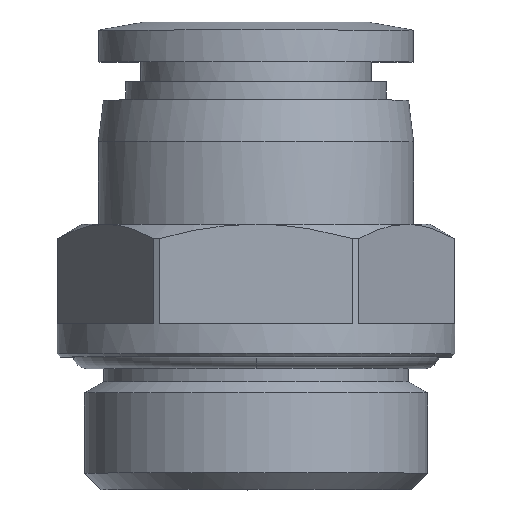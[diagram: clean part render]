
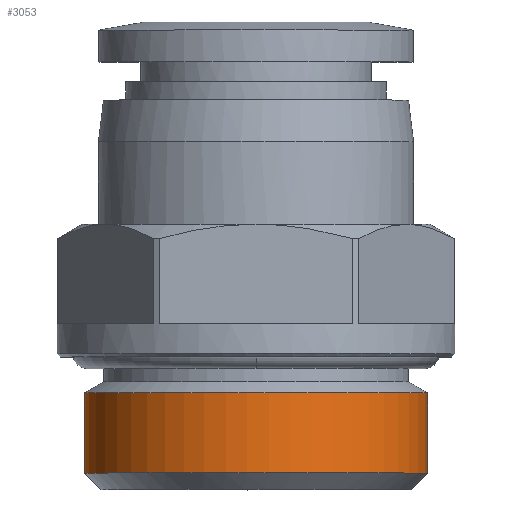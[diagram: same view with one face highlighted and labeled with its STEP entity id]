
A CAD part, top view. The second image highlights one B-rep face of the part: STEP entity #3053.
In plain terms, the highlighted cylindrical face has radius 10.35 mm (diameter 20.7 mm), a partial arc.
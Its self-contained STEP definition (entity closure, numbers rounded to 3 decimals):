
#13 = CARTESIAN_POINT ( 'NONE',  ( 10.081, 5.836, 2.709 ) ) ;
#91 = DIRECTION ( 'NONE',  ( 0., 1., 0. ) ) ;
#143 = CARTESIAN_POINT ( 'NONE',  ( 10.35, 1., 1.355 ) ) ;
#155 = EDGE_LOOP ( 'NONE', ( #210, #1921, #3296, #2429 ) ) ;
#194 = CARTESIAN_POINT ( 'NONE',  ( -10.35, 1., 1.355 ) ) ;
#210 = ORIENTED_EDGE ( 'NONE', *, *, #642, .F. ) ;
#292 = CARTESIAN_POINT ( 'NONE',  ( -1.355, 5.836, 10.35 ) ) ;
#304 = CARTESIAN_POINT ( 'NONE',  ( 10.35, 1., 0. ) ) ;
#375 = CARTESIAN_POINT ( 'NONE',  ( 10.35, 1., 0. ) ) ;
#410 = CARTESIAN_POINT ( 'NONE',  ( 10.35, 5.836, 0. ) ) ;
#440 = DIRECTION ( 'NONE',  ( 0., 1., 0. ) ) ;
#524 = VERTEX_POINT ( 'NONE', #410 ) ;
#544 = CARTESIAN_POINT ( 'NONE',  ( 8.277, 5.836, 6.361 ) ) ;
#562 = CARTESIAN_POINT ( 'NONE',  ( 9.044, 5.836, 5.212 ) ) ;
#642 = EDGE_CURVE ( 'NONE', #3328, #822, #771, .T. ) ;
#680 = CARTESIAN_POINT ( 'NONE',  ( 8.277, 1., 6.361 ) ) ;
#732 = FACE_OUTER_BOUND ( 'NONE', #155, .T. ) ;
#771 = B_SPLINE_CURVE_WITH_KNOTS ( 'NONE', 3,
 ( #375, #143, #1405, #1170, #680, #2188, #930, #2968, #2203, #2987, #1709, #1477, #2498, #1200, #3042, #1723, #194, #2516 ),
 .UNSPECIFIED., .F., .F.,
 ( 4, 2, 2, 2, 2, 2, 2, 2, 4 ),
 ( 0.5, 0.563, 0.625, 0.688, 0.75, 0.813, 0.875, 0.938, 1. ),
 .UNSPECIFIED. ) ;
#784 = CARTESIAN_POINT ( 'NONE',  ( -10.35, 5.836, 1.355 ) ) ;
#805 = CARTESIAN_POINT ( 'NONE',  ( -10.35, 3.418, 0. ) ) ;
#815 = CARTESIAN_POINT ( 'NONE',  ( -9.044, 5.836, 5.212 ) ) ;
#819 = VECTOR ( 'NONE', #91, 1000. ) ;
#822 = VERTEX_POINT ( 'NONE', #2502 ) ;
#832 = CARTESIAN_POINT ( 'NONE',  ( 1.355, 5.836, 10.35 ) ) ;
#912 = CARTESIAN_POINT ( 'NONE',  ( 10.35, 3.418, 0. ) ) ;
#930 = CARTESIAN_POINT ( 'NONE',  ( 5.212, 1., 9.044 ) ) ;
#1049 = CARTESIAN_POINT ( 'NONE',  ( -10.35, 5.836, 0. ) ) ;
#1095 = CARTESIAN_POINT ( 'NONE',  ( 5.212, 5.836, 9.044 ) ) ;
#1170 = CARTESIAN_POINT ( 'NONE',  ( 9.044, 1., 5.212 ) ) ;
#1200 = CARTESIAN_POINT ( 'NONE',  ( -8.277, 1., 6.361 ) ) ;
#1234 = VERTEX_POINT ( 'NONE', #1995 ) ;
#1304 = CARTESIAN_POINT ( 'NONE',  ( -5.212, 5.836, 9.044 ) ) ;
#1312 = DIRECTION ( 'NONE',  ( 0., 1., 0. ) ) ;
#1350 = EDGE_CURVE ( 'NONE', #822, #1234, #2590, .T. ) ;
#1405 = CARTESIAN_POINT ( 'NONE',  ( 10.081, 1., 2.709 ) ) ;
#1477 = CARTESIAN_POINT ( 'NONE',  ( -5.212, 1., 9.044 ) ) ;
#1578 = CARTESIAN_POINT ( 'NONE',  ( 6.361, 5.836, 8.277 ) ) ;
#1594 = CARTESIAN_POINT ( 'NONE',  ( 2.709, 5.836, 10.081 ) ) ;
#1709 = CARTESIAN_POINT ( 'NONE',  ( -2.709, 1., 10.081 ) ) ;
#1723 = CARTESIAN_POINT ( 'NONE',  ( -10.081, 1., 2.709 ) ) ;
#1759 = CYLINDRICAL_SURFACE ( 'NONE', #1949, 10.35 ) ;
#1778 = CARTESIAN_POINT ( 'NONE',  ( 0., 3.418, 0. ) ) ;
#1921 = ORIENTED_EDGE ( 'NONE', *, *, #3214, .T. ) ;
#1949 = AXIS2_PLACEMENT_3D ( 'NONE', #1778, #440, #2008 ) ;
#1995 = CARTESIAN_POINT ( 'NONE',  ( -10.35, 5.836, 0. ) ) ;
#2008 = DIRECTION ( 'NONE',  ( -1., 0., 0. ) ) ;
#2188 = CARTESIAN_POINT ( 'NONE',  ( 6.361, 1., 8.277 ) ) ;
#2203 = CARTESIAN_POINT ( 'NONE',  ( 1.355, 1., 10.35 ) ) ;
#2359 = CARTESIAN_POINT ( 'NONE',  ( 10.35, 5.836, 0. ) ) ;
#2424 = LINE ( 'NONE', #912, #819 ) ;
#2429 = ORIENTED_EDGE ( 'NONE', *, *, #1350, .F. ) ;
#2498 = CARTESIAN_POINT ( 'NONE',  ( -6.361, 1., 8.277 ) ) ;
#2502 = CARTESIAN_POINT ( 'NONE',  ( -10.35, 1., 0. ) ) ;
#2516 = CARTESIAN_POINT ( 'NONE',  ( -10.35, 1., 0. ) ) ;
#2529 = EDGE_CURVE ( 'NONE', #524, #1234, #2993, .T. ) ;
#2590 = LINE ( 'NONE', #805, #2922 ) ;
#2600 = CARTESIAN_POINT ( 'NONE',  ( -8.277, 5.836, 6.361 ) ) ;
#2615 = CARTESIAN_POINT ( 'NONE',  ( -10.081, 5.836, 2.709 ) ) ;
#2630 = CARTESIAN_POINT ( 'NONE',  ( 10.35, 5.836, 1.355 ) ) ;
#2644 = CARTESIAN_POINT ( 'NONE',  ( -2.709, 5.836, 10.081 ) ) ;
#2922 = VECTOR ( 'NONE', #1312, 1000. ) ;
#2968 = CARTESIAN_POINT ( 'NONE',  ( 2.709, 1., 10.081 ) ) ;
#2987 = CARTESIAN_POINT ( 'NONE',  ( -1.355, 1., 10.35 ) ) ;
#2993 = B_SPLINE_CURVE_WITH_KNOTS ( 'NONE', 3,
 ( #2359, #2630, #13, #562, #544, #1578, #1095, #1594, #832, #292, #2644, #1304, #3092, #2600, #815, #2615, #784, #1049 ),
 .UNSPECIFIED., .F., .F.,
 ( 4, 2, 2, 2, 2, 2, 2, 2, 4 ),
 ( 0.5, 0.563, 0.625, 0.688, 0.75, 0.813, 0.875, 0.938, 1. ),
 .UNSPECIFIED. ) ;
#3042 = CARTESIAN_POINT ( 'NONE',  ( -9.044, 1., 5.212 ) ) ;
#3053 = ADVANCED_FACE ( 'NONE', ( #732 ), #1759, .T. ) ;
#3092 = CARTESIAN_POINT ( 'NONE',  ( -6.361, 5.836, 8.277 ) ) ;
#3214 = EDGE_CURVE ( 'NONE', #3328, #524, #2424, .T. ) ;
#3296 = ORIENTED_EDGE ( 'NONE', *, *, #2529, .T. ) ;
#3328 = VERTEX_POINT ( 'NONE', #304 ) ;
